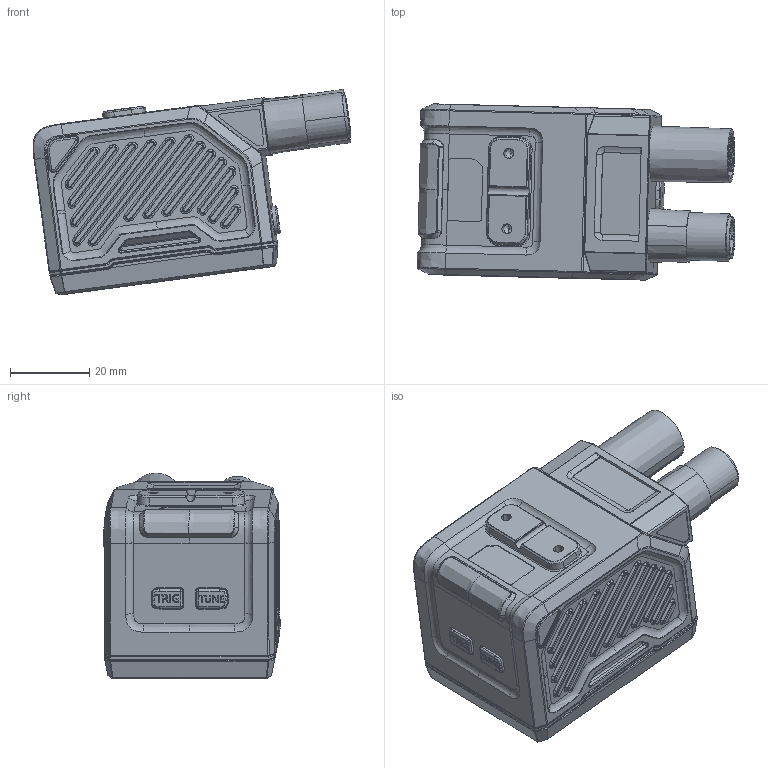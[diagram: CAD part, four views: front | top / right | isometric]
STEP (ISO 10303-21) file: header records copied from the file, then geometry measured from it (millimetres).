
FILE_DESCRIPTION((''),'2;1');
FILE_NAME('PRT0090','2023-06-02T18:21:21',('qinyangfan'),(''),'CREO PARAMETRIC BY PTC INC, 2020044','CREO PARAMETRIC BY PTC INC, 2020044','');
FILE_SCHEMA(('CONFIG_CONTROL_DESIGN'));
Products named in the file (1): PRT0090
Bounding box: 80.11 x 44.36 x 51.79 mm (x, y, z)
Volume: 98747.5 mm3; surface area: 34241.9 mm2
Topology: 1 solids, 10 shells, 2863 faces, 7410 edges, 4595 vertices
Faces by surface type: cylinder 972, plane 936, torus 345, cone 330, bspline 177, extrusion 77, sphere 24, revolution 2
Entity records: 115494 total; most frequent: CARTESIAN_POINT 46463, ORIENTED_EDGE 14684, DIRECTION 14354, EDGE_CURVE 7342, AXIS2_PLACEMENT_3D 5390, VERTEX_POINT 4595, VECTOR 3572, LINE 3495
